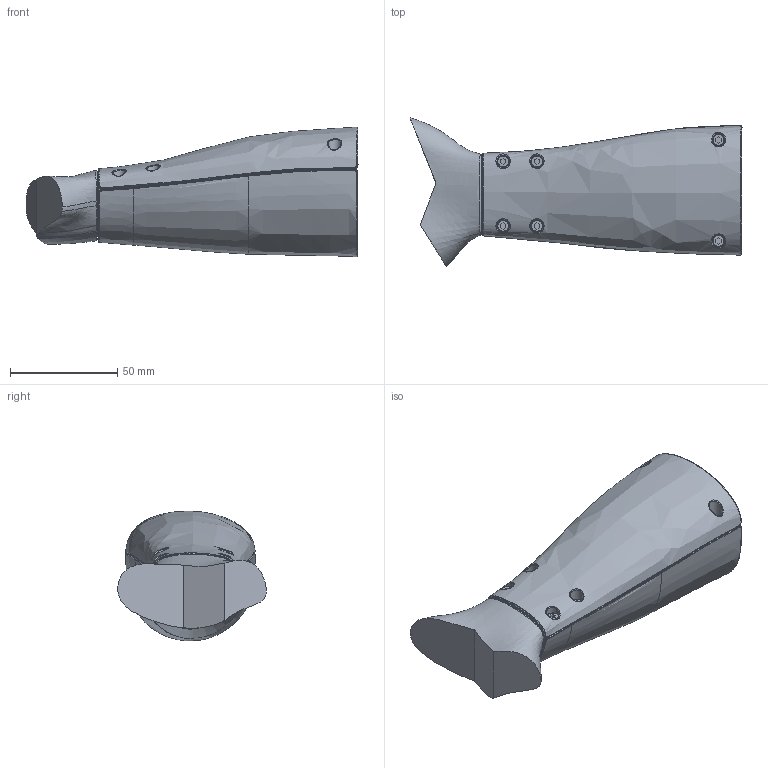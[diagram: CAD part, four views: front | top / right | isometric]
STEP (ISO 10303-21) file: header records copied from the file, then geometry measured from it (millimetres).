
FILE_DESCRIPTION (( 'STEP AP203' ), '1' );
FILE_NAME ('G1基础版&标准版末端装配图.STEP', '2024-12-04T09:30:14', ( 'Opium' ), ( 'YC.TEC' ), 'SwSTEP 2.0', 'SolidWorks 2023', '' );
FILE_SCHEMA (( 'CONFIG_CONTROL_DESIGN' ));
Products named in the file (5): M3螺钉长度10mm_默认; G1基础版&标准版末端抱箍一_默认; G1基础版&标准版末端装配图; G1基础版&标准版末端抱箍二_默认; G1基础版&标准版末端执行器(示意)_默认
Assembly tree (9 placements, depth 2):
  G1基础版&标准版末端装配图
    G1基础版&标准版末端抱箍一_默认
    G1基础版&标准版末端抱箍二_默认
    G1基础版&标准版末端执行器(示意)_默认
    M3螺钉长度10mm_默认  x6
Bounding box: 154.45 x 69.08 x 60.34 mm (x, y, z)
Volume: 101874.4 mm3; surface area: 62347.6 mm2
Topology: 9 solids, 9 shells, 1276 faces, 3105 edges, 1857 vertices
Faces by surface type: bspline 636, plane 295, cylinder 119, cone 90, torus 71, sphere 65
Full cylindrical faces by diameter (mm): 2.5 x6, 3 x6, 3.3 x6, 5 x4, 5.5 x6, 5.94 x2, 6 x8, 24 x5
Entity records: 96617 total; most frequent: CARTESIAN_POINT 73934, ORIENTED_EDGE 5650, EDGE_CURVE 2825, DIRECTION 2807, B_SPLINE_CURVE_WITH_KNOTS 1729, VERTEX_POINT 1723, EDGE_LOOP 1304, FACE_OUTER_BOUND 1258
